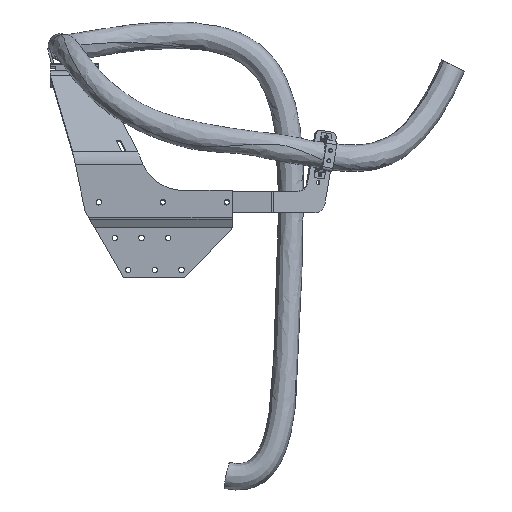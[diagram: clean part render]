
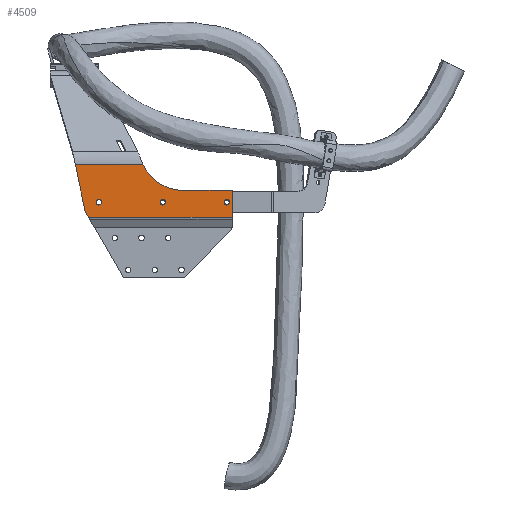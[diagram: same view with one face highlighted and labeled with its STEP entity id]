
A CAD part, front view. The second image highlights one B-rep face of the part: STEP entity #4509.
In plain terms, the highlighted planar face has unit normal (0, -1, 0).
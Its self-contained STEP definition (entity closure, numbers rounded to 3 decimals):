
#944 = CARTESIAN_POINT ( 'NONE',  ( -119., -470., 627. ) ) ;
#945 = DIRECTION ( 'NONE',  ( 0., -1., 0. ) ) ;
#946 = DIRECTION ( 'NONE',  ( 1., 0., 0. ) ) ;
#995 = DIRECTION ( 'NONE',  ( 1., 0., 0. ) ) ;
#996 = DIRECTION ( 'NONE',  ( 0., -1., 0. ) ) ;
#997 = CARTESIAN_POINT ( 'NONE',  ( -359., -470., 627. ) ) ;
#1339 = CARTESIAN_POINT ( 'NONE',  ( -391.096, -470., 620.854 ) ) ;
#1346 = DIRECTION ( 'NONE',  ( -0.5, 0., 0.866 ) ) ;
#1487 = CARTESIAN_POINT ( 'NONE',  ( -199.593, -470., 734. ) ) ;
#1488 = DIRECTION ( 'NONE',  ( 0., 1., 0. ) ) ;
#1489 = DIRECTION ( 'NONE',  ( 1., 0., 0. ) ) ;
#1682 = LINE ( 'NONE', #1339, #1686 ) ;
#1686 = VECTOR ( 'NONE', #1346, 1000. ) ;
#1753 = CIRCLE ( 'NONE', #7066, 85. ) ;
#1818 = LINE ( 'NONE', #7741, #1821 ) ;
#1821 = VECTOR ( 'NONE', #7742, 1000. ) ;
#1840 = LINE ( 'NONE', #7834, #1854 ) ;
#1842 = CIRCLE ( 'NONE', #7079, 5.25 ) ;
#1853 = LINE ( 'NONE', #7820, #1858 ) ;
#1854 = VECTOR ( 'NONE', #7836, 1000. ) ;
#1858 = VECTOR ( 'NONE', #7839, 1000. ) ;
#1970 = LINE ( 'NONE', #4801, #1973 ) ;
#1973 = VECTOR ( 'NONE', #4802, 1000. ) ;
#2058 = CIRCLE ( 'NONE', #7117, 5.25 ) ;
#2117 = LINE ( 'NONE', #5233, #2120 ) ;
#2120 = VECTOR ( 'NONE', #5234, 1000. ) ;
#3265 = CIRCLE ( 'NONE', #7137, 5.25 ) ;
#3348 = CIRCLE ( 'NONE', #7154, 5.25 ) ;
#3433 = CARTESIAN_POINT ( 'NONE',  ( -239., -470., 627. ) ) ;
#3434 = DIRECTION ( 'NONE',  ( 0., -1., 0. ) ) ;
#3435 = DIRECTION ( 'NONE',  ( 1., 0., 0. ) ) ;
#3657 = CARTESIAN_POINT ( 'NONE',  ( -359., -470., 627. ) ) ;
#3658 = DIRECTION ( 'NONE',  ( 0., -1., 0. ) ) ;
#3659 = DIRECTION ( 'NONE',  ( 1., 0., 0. ) ) ;
#3761 = CARTESIAN_POINT ( 'NONE',  ( -384.865, -470., 610.063 ) ) ;
#3779 = CARTESIAN_POINT ( 'NONE',  ( -244.25, -470., 627. ) ) ;
#3804 = CARTESIAN_POINT ( 'NONE',  ( -109., -470., 649. ) ) ;
#3822 = CARTESIAN_POINT ( 'NONE',  ( -124.25, -470., 627. ) ) ;
#3837 = CARTESIAN_POINT ( 'NONE',  ( -113.75, -470., 627. ) ) ;
#3842 = CARTESIAN_POINT ( 'NONE',  ( -378.142, -470., 598.417 ) ) ;
#3859 = CARTESIAN_POINT ( 'NONE',  ( -364.25, -470., 627. ) ) ;
#3860 = CARTESIAN_POINT ( 'NONE',  ( -109., -470., 598.417 ) ) ;
#3931 = CARTESIAN_POINT ( 'NONE',  ( -402.935, -470., 697.434 ) ) ;
#4265 = CARTESIAN_POINT ( 'NONE',  ( -199.593, -470., 731.419 ) ) ;
#4278 = DIRECTION ( 'NONE',  ( 1., 0., 0. ) ) ;
#4279 = PLANE ( 'NONE',  #6769 ) ;
#4341 = DIRECTION ( 'NONE',  ( 0., -1., 0. ) ) ;
#4509 = ADVANCED_FACE ( 'NONE', ( #9518, #9521, #9515, #9517 ), #4279, .T. ) ;
#4801 = CARTESIAN_POINT ( 'NONE',  ( -199.593, -470., 649. ) ) ;
#4802 = DIRECTION ( 'NONE',  ( -1., 0., 0. ) ) ;
#5032 = CARTESIAN_POINT ( 'NONE',  ( -239., -470., 627. ) ) ;
#5033 = DIRECTION ( 'NONE',  ( 0., -1., 0. ) ) ;
#5034 = DIRECTION ( 'NONE',  ( 1., 0., 0. ) ) ;
#5233 = CARTESIAN_POINT ( 'NONE',  ( -359., -470., 485. ) ) ;
#5234 = DIRECTION ( 'NONE',  ( 0.203, 0., -0.979 ) ) ;
#5583 = CIRCLE ( 'NONE', #6997, 5.25 ) ;
#5593 = CIRCLE ( 'NONE', #7002, 5.25 ) ;
#6115 = ORIENTED_EDGE ( 'NONE', *, *, #7272, .T. ) ;
#6116 = ORIENTED_EDGE ( 'NONE', *, *, #7231, .T. ) ;
#6117 = ORIENTED_EDGE ( 'NONE', *, *, #7372, .T. ) ;
#6119 = ORIENTED_EDGE ( 'NONE', *, *, #7298, .T. ) ;
#6120 = ORIENTED_EDGE ( 'NONE', *, *, #7296, .F. ) ;
#6121 = ORIENTED_EDGE ( 'NONE', *, *, #7184, .F. ) ;
#6122 = ORIENTED_EDGE ( 'NONE', *, *, #7480, .T. ) ;
#6123 = ORIENTED_EDGE ( 'NONE', *, *, #7290, .F. ) ;
#6124 = ORIENTED_EDGE ( 'NONE', *, *, #6513, .F. ) ;
#6125 = ORIENTED_EDGE ( 'NONE', *, *, #7432, .F. ) ;
#6126 = ORIENTED_EDGE ( 'NONE', *, *, #7495, .F. ) ;
#6127 = ORIENTED_EDGE ( 'NONE', *, *, #6505, .F. ) ;
#6128 = ORIENTED_EDGE ( 'NONE', *, *, #7551, .F. ) ;
#6505 = EDGE_CURVE ( 'NONE', #9164, #9339, #5583, .T. ) ;
#6513 = EDGE_CURVE ( 'NONE', #9142, #9127, #5593, .T. ) ;
#6769 = AXIS2_PLACEMENT_3D ( 'NONE', #4265, #4341, #4278 ) ;
#6997 = AXIS2_PLACEMENT_3D ( 'NONE', #997, #996, #995 ) ;
#7002 = AXIS2_PLACEMENT_3D ( 'NONE', #944, #945, #946 ) ;
#7066 = AXIS2_PLACEMENT_3D ( 'NONE', #1487, #1488, #1489 ) ;
#7079 = AXIS2_PLACEMENT_3D ( 'NONE', #7813, #7814, #7815 ) ;
#7117 = AXIS2_PLACEMENT_3D ( 'NONE', #5032, #5033, #5034 ) ;
#7137 = AXIS2_PLACEMENT_3D ( 'NONE', #3433, #3434, #3435 ) ;
#7154 = AXIS2_PLACEMENT_3D ( 'NONE', #3657, #3658, #3659 ) ;
#7184 = EDGE_CURVE ( 'NONE', #9147, #9066, #1682, .T. ) ;
#7231 = EDGE_CURVE ( 'NONE', #9368, #9413, #1753, .T. ) ;
#7272 = EDGE_CURVE ( 'NONE', #9413, #9236, #1818, .T. ) ;
#7290 = EDGE_CURVE ( 'NONE', #9127, #9142, #1842, .T. ) ;
#7296 = EDGE_CURVE ( 'NONE', #9165, #9147, #1840, .T. ) ;
#7298 = EDGE_CURVE ( 'NONE', #9165, #9109, #1853, .T. ) ;
#7372 = EDGE_CURVE ( 'NONE', #9109, #9368, #1970, .T. ) ;
#7432 = EDGE_CURVE ( 'NONE', #9084, #9354, #2058, .T. ) ;
#7480 = EDGE_CURVE ( 'NONE', #9236, #9066, #2117, .T. ) ;
#7495 = EDGE_CURVE ( 'NONE', #9354, #9084, #3265, .T. ) ;
#7551 = EDGE_CURVE ( 'NONE', #9339, #9164, #3348, .T. ) ;
#7741 = CARTESIAN_POINT ( 'NONE',  ( -199.593, -470., 697.434 ) ) ;
#7742 = DIRECTION ( 'NONE',  ( -1., 0., 0. ) ) ;
#7813 = CARTESIAN_POINT ( 'NONE',  ( -119., -470., 627. ) ) ;
#7814 = DIRECTION ( 'NONE',  ( 0., -1., 0. ) ) ;
#7815 = DIRECTION ( 'NONE',  ( 1., 0., 0. ) ) ;
#7820 = CARTESIAN_POINT ( 'NONE',  ( -109., -470., 646.419 ) ) ;
#7834 = CARTESIAN_POINT ( 'NONE',  ( -199.593, -470., 598.417 ) ) ;
#7836 = DIRECTION ( 'NONE',  ( -1., 0., 0. ) ) ;
#7839 = DIRECTION ( 'NONE',  ( 0., 0., 1. ) ) ;
#8600 = EDGE_LOOP ( 'NONE', ( #6124, #6123 ) ) ;
#8604 = EDGE_LOOP ( 'NONE', ( #6122, #6121, #6120, #6119, #6117, #6116, #6115 ) ) ;
#8614 = EDGE_LOOP ( 'NONE', ( #6126, #6125 ) ) ;
#8759 = EDGE_LOOP ( 'NONE', ( #6128, #6127 ) ) ;
#8887 = CARTESIAN_POINT ( 'NONE',  ( -353.75, -470., 627. ) ) ;
#8902 = CARTESIAN_POINT ( 'NONE',  ( -233.75, -470., 627. ) ) ;
#8916 = CARTESIAN_POINT ( 'NONE',  ( -199.593, -470., 649. ) ) ;
#8961 = CARTESIAN_POINT ( 'NONE',  ( -276.325, -470., 697.434 ) ) ;
#9066 = VERTEX_POINT ( 'NONE', #3761 ) ;
#9084 = VERTEX_POINT ( 'NONE', #3779 ) ;
#9109 = VERTEX_POINT ( 'NONE', #3804 ) ;
#9127 = VERTEX_POINT ( 'NONE', #3822 ) ;
#9142 = VERTEX_POINT ( 'NONE', #3837 ) ;
#9147 = VERTEX_POINT ( 'NONE', #3842 ) ;
#9164 = VERTEX_POINT ( 'NONE', #3859 ) ;
#9165 = VERTEX_POINT ( 'NONE', #3860 ) ;
#9236 = VERTEX_POINT ( 'NONE', #3931 ) ;
#9339 = VERTEX_POINT ( 'NONE', #8887 ) ;
#9354 = VERTEX_POINT ( 'NONE', #8902 ) ;
#9368 = VERTEX_POINT ( 'NONE', #8916 ) ;
#9413 = VERTEX_POINT ( 'NONE', #8961 ) ;
#9515 = FACE_BOUND ( 'NONE', #8600, .T. ) ;
#9517 = FACE_OUTER_BOUND ( 'NONE', #8604, .T. ) ;
#9518 = FACE_BOUND ( 'NONE', #8759, .T. ) ;
#9521 = FACE_BOUND ( 'NONE', #8614, .T. ) ;
